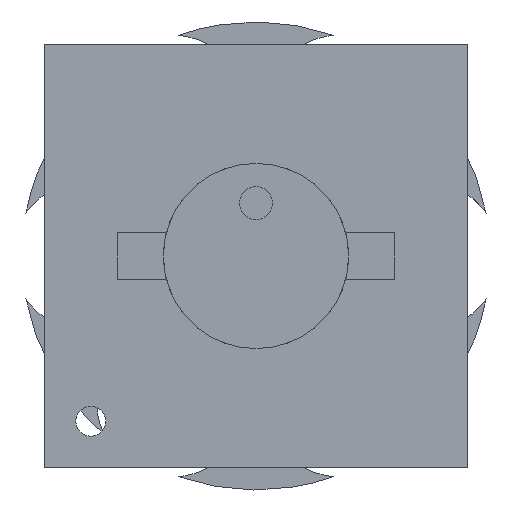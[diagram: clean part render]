
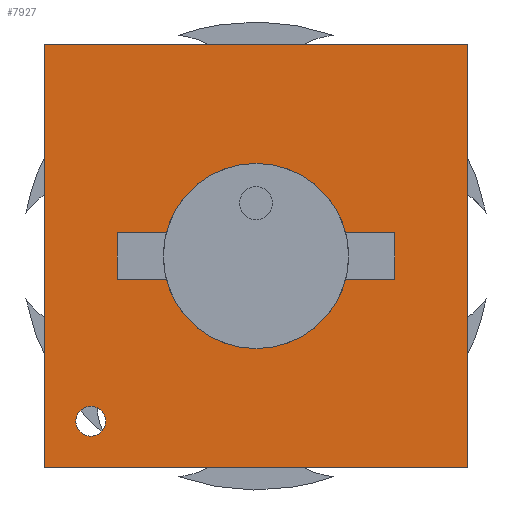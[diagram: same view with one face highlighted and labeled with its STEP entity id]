
A CAD part, front view. The second image highlights one B-rep face of the part: STEP entity #7927.
In plain terms, the highlighted planar face has unit normal (0, -1, 0).
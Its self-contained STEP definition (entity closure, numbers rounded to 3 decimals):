
#7738 = VERTEX_POINT('',#7739);
#7739 = CARTESIAN_POINT('',(-82.,-40.,84.7));
#7746 = PLANE('',#7747);
#7747 = AXIS2_PLACEMENT_3D('',#7748,#7749,#7750);
#7748 = CARTESIAN_POINT('',(-82.,-33.,84.7));
#7749 = DIRECTION('',(1.,0.,0.));
#7750 = DIRECTION('',(0.,-1.,0.));
#7758 = PLANE('',#7759);
#7759 = AXIS2_PLACEMENT_3D('',#7760,#7761,#7762);
#7760 = CARTESIAN_POINT('',(-82.,-33.,84.7));
#7761 = DIRECTION('',(0.,0.,1.));
#7762 = DIRECTION('',(0.,-1.,0.));
#7799 = VERTEX_POINT('',#7800);
#7800 = CARTESIAN_POINT('',(-82.,-40.,148.7));
#7814 = PLANE('',#7815);
#7815 = AXIS2_PLACEMENT_3D('',#7816,#7817,#7818);
#7816 = CARTESIAN_POINT('',(-82.,-33.,148.7));
#7817 = DIRECTION('',(0.,0.,1.));
#7818 = DIRECTION('',(0.,-1.,0.));
#7826 = EDGE_CURVE('',#7738,#7799,#7827,.T.);
#7827 = SURFACE_CURVE('',#7828,(#7832,#7839),.PCURVE_S1.);
#7828 = LINE('',#7829,#7830);
#7829 = CARTESIAN_POINT('',(-82.,-40.,84.7));
#7830 = VECTOR('',#7831,1.);
#7831 = DIRECTION('',(0.,0.,1.));
#7832 = PCURVE('',#7746,#7833);
#7833 = DEFINITIONAL_REPRESENTATION('',(#7834),#7838);
#7834 = LINE('',#7835,#7836);
#7835 = CARTESIAN_POINT('',(7.,0.));
#7836 = VECTOR('',#7837,1.);
#7837 = DIRECTION('',(0.,-1.));
#7838 = ( GEOMETRIC_REPRESENTATION_CONTEXT(2) 
PARAMETRIC_REPRESENTATION_CONTEXT() REPRESENTATION_CONTEXT('2D SPACE',''
  ) );
#7839 = PCURVE('',#7840,#7845);
#7840 = PLANE('',#7841);
#7841 = AXIS2_PLACEMENT_3D('',#7842,#7843,#7844);
#7842 = CARTESIAN_POINT('',(-82.,-40.,84.7));
#7843 = DIRECTION('',(0.,-1.,0.));
#7844 = DIRECTION('',(1.,0.,0.));
#7845 = DEFINITIONAL_REPRESENTATION('',(#7846),#7850);
#7846 = LINE('',#7847,#7848);
#7847 = CARTESIAN_POINT('',(0.,0.));
#7848 = VECTOR('',#7849,1.);
#7849 = DIRECTION('',(0.,1.));
#7850 = ( GEOMETRIC_REPRESENTATION_CONTEXT(2) 
PARAMETRIC_REPRESENTATION_CONTEXT() REPRESENTATION_CONTEXT('2D SPACE',''
  ) );
#7879 = EDGE_CURVE('',#7738,#7880,#7882,.T.);
#7880 = VERTEX_POINT('',#7881);
#7881 = CARTESIAN_POINT('',(-18.,-40.,84.7));
#7882 = SURFACE_CURVE('',#7883,(#7887,#7894),.PCURVE_S1.);
#7883 = LINE('',#7884,#7885);
#7884 = CARTESIAN_POINT('',(-82.,-40.,84.7));
#7885 = VECTOR('',#7886,1.);
#7886 = DIRECTION('',(1.,0.,0.));
#7887 = PCURVE('',#7758,#7888);
#7888 = DEFINITIONAL_REPRESENTATION('',(#7889),#7893);
#7889 = LINE('',#7890,#7891);
#7890 = CARTESIAN_POINT('',(7.,0.));
#7891 = VECTOR('',#7892,1.);
#7892 = DIRECTION('',(0.,1.));
#7893 = ( GEOMETRIC_REPRESENTATION_CONTEXT(2) 
PARAMETRIC_REPRESENTATION_CONTEXT() REPRESENTATION_CONTEXT('2D SPACE',''
  ) );
#7894 = PCURVE('',#7840,#7895);
#7895 = DEFINITIONAL_REPRESENTATION('',(#7896),#7900);
#7896 = LINE('',#7897,#7898);
#7897 = CARTESIAN_POINT('',(0.,0.));
#7898 = VECTOR('',#7899,1.);
#7899 = DIRECTION('',(1.,0.));
#7900 = ( GEOMETRIC_REPRESENTATION_CONTEXT(2) 
PARAMETRIC_REPRESENTATION_CONTEXT() REPRESENTATION_CONTEXT('2D SPACE',''
  ) );
#7916 = PLANE('',#7917);
#7917 = AXIS2_PLACEMENT_3D('',#7918,#7919,#7920);
#7918 = CARTESIAN_POINT('',(-18.,-33.,84.7));
#7919 = DIRECTION('',(1.,0.,0.));
#7920 = DIRECTION('',(0.,-1.,0.));
#7927 = ADVANCED_FACE('',(#7928,#7976,#8011,#8046),#7840,.T.);
#7928 = FACE_BOUND('',#7929,.T.);
#7929 = EDGE_LOOP('',(#7930,#7931,#7932,#7955));
#7930 = ORIENTED_EDGE('',*,*,#7826,.F.);
#7931 = ORIENTED_EDGE('',*,*,#7879,.T.);
#7932 = ORIENTED_EDGE('',*,*,#7933,.T.);
#7933 = EDGE_CURVE('',#7880,#7934,#7936,.T.);
#7934 = VERTEX_POINT('',#7935);
#7935 = CARTESIAN_POINT('',(-18.,-40.,148.7));
#7936 = SURFACE_CURVE('',#7937,(#7941,#7948),.PCURVE_S1.);
#7937 = LINE('',#7938,#7939);
#7938 = CARTESIAN_POINT('',(-18.,-40.,84.7));
#7939 = VECTOR('',#7940,1.);
#7940 = DIRECTION('',(0.,0.,1.));
#7941 = PCURVE('',#7840,#7942);
#7942 = DEFINITIONAL_REPRESENTATION('',(#7943),#7947);
#7943 = LINE('',#7944,#7945);
#7944 = CARTESIAN_POINT('',(64.,0.));
#7945 = VECTOR('',#7946,1.);
#7946 = DIRECTION('',(0.,1.));
#7947 = ( GEOMETRIC_REPRESENTATION_CONTEXT(2) 
PARAMETRIC_REPRESENTATION_CONTEXT() REPRESENTATION_CONTEXT('2D SPACE',''
  ) );
#7948 = PCURVE('',#7916,#7949);
#7949 = DEFINITIONAL_REPRESENTATION('',(#7950),#7954);
#7950 = LINE('',#7951,#7952);
#7951 = CARTESIAN_POINT('',(7.,0.));
#7952 = VECTOR('',#7953,1.);
#7953 = DIRECTION('',(0.,-1.));
#7954 = ( GEOMETRIC_REPRESENTATION_CONTEXT(2) 
PARAMETRIC_REPRESENTATION_CONTEXT() REPRESENTATION_CONTEXT('2D SPACE',''
  ) );
#7955 = ORIENTED_EDGE('',*,*,#7956,.F.);
#7956 = EDGE_CURVE('',#7799,#7934,#7957,.T.);
#7957 = SURFACE_CURVE('',#7958,(#7962,#7969),.PCURVE_S1.);
#7958 = LINE('',#7959,#7960);
#7959 = CARTESIAN_POINT('',(-82.,-40.,148.7));
#7960 = VECTOR('',#7961,1.);
#7961 = DIRECTION('',(1.,0.,0.));
#7962 = PCURVE('',#7840,#7963);
#7963 = DEFINITIONAL_REPRESENTATION('',(#7964),#7968);
#7964 = LINE('',#7965,#7966);
#7965 = CARTESIAN_POINT('',(0.,64.));
#7966 = VECTOR('',#7967,1.);
#7967 = DIRECTION('',(1.,0.));
#7968 = ( GEOMETRIC_REPRESENTATION_CONTEXT(2) 
PARAMETRIC_REPRESENTATION_CONTEXT() REPRESENTATION_CONTEXT('2D SPACE',''
  ) );
#7969 = PCURVE('',#7814,#7970);
#7970 = DEFINITIONAL_REPRESENTATION('',(#7971),#7975);
#7971 = LINE('',#7972,#7973);
#7972 = CARTESIAN_POINT('',(7.,0.));
#7973 = VECTOR('',#7974,1.);
#7974 = DIRECTION('',(0.,1.));
#7975 = ( GEOMETRIC_REPRESENTATION_CONTEXT(2) 
PARAMETRIC_REPRESENTATION_CONTEXT() REPRESENTATION_CONTEXT('2D SPACE',''
  ) );
#7976 = FACE_BOUND('',#7977,.T.);
#7977 = EDGE_LOOP('',(#7978));
#7978 = ORIENTED_EDGE('',*,*,#7979,.T.);
#7979 = EDGE_CURVE('',#7980,#7980,#7982,.T.);
#7980 = VERTEX_POINT('',#7981);
#7981 = CARTESIAN_POINT('',(-77.25,-40.,91.7));
#7982 = SURFACE_CURVE('',#7983,(#7988,#7999),.PCURVE_S1.);
#7983 = CIRCLE('',#7984,2.25);
#7984 = AXIS2_PLACEMENT_3D('',#7985,#7986,#7987);
#7985 = CARTESIAN_POINT('',(-75.,-40.,91.7));
#7986 = DIRECTION('',(0.,1.,0.));
#7987 = DIRECTION('',(-1.,0.,0.));
#7988 = PCURVE('',#7840,#7989);
#7989 = DEFINITIONAL_REPRESENTATION('',(#7990),#7998);
#7990 = ( BOUNDED_CURVE() B_SPLINE_CURVE(2,(#7991,#7992,#7993,#7994,
#7995,#7996,#7997),.UNSPECIFIED.,.T.,.F.) B_SPLINE_CURVE_WITH_KNOTS((1,2
    ,2,2,2,1),(-2.094,0.,2.094,4.189,
6.283,8.378),.UNSPECIFIED.) CURVE() 
GEOMETRIC_REPRESENTATION_ITEM() RATIONAL_B_SPLINE_CURVE((1.,0.5,1.,0.5,
1.,0.5,1.)) REPRESENTATION_ITEM('') );
#7991 = CARTESIAN_POINT('',(4.75,7.));
#7992 = CARTESIAN_POINT('',(4.75,10.897));
#7993 = CARTESIAN_POINT('',(8.125,8.949));
#7994 = CARTESIAN_POINT('',(11.5,7.));
#7995 = CARTESIAN_POINT('',(8.125,5.051));
#7996 = CARTESIAN_POINT('',(4.75,3.103));
#7997 = CARTESIAN_POINT('',(4.75,7.));
#7998 = ( GEOMETRIC_REPRESENTATION_CONTEXT(2) 
PARAMETRIC_REPRESENTATION_CONTEXT() REPRESENTATION_CONTEXT('2D SPACE',''
  ) );
#7999 = PCURVE('',#8000,#8005);
#8000 = CYLINDRICAL_SURFACE('',#8001,2.25);
#8001 = AXIS2_PLACEMENT_3D('',#8002,#8003,#8004);
#8002 = CARTESIAN_POINT('',(-75.,-40.,91.7));
#8003 = DIRECTION('',(0.,1.,0.));
#8004 = DIRECTION('',(-1.,0.,0.));
#8005 = DEFINITIONAL_REPRESENTATION('',(#8006),#8010);
#8006 = LINE('',#8007,#8008);
#8007 = CARTESIAN_POINT('',(0.,0.));
#8008 = VECTOR('',#8009,1.);
#8009 = DIRECTION('',(1.,0.));
#8010 = ( GEOMETRIC_REPRESENTATION_CONTEXT(2) 
PARAMETRIC_REPRESENTATION_CONTEXT() REPRESENTATION_CONTEXT('2D SPACE',''
  ) );
#8011 = FACE_BOUND('',#8012,.T.);
#8012 = EDGE_LOOP('',(#8013));
#8013 = ORIENTED_EDGE('',*,*,#8014,.T.);
#8014 = EDGE_CURVE('',#8015,#8015,#8017,.T.);
#8015 = VERTEX_POINT('',#8016);
#8016 = CARTESIAN_POINT('',(-69.6,-40.,116.7));
#8017 = SURFACE_CURVE('',#8018,(#8023,#8034),.PCURVE_S1.);
#8018 = CIRCLE('',#8019,2.1);
#8019 = AXIS2_PLACEMENT_3D('',#8020,#8021,#8022);
#8020 = CARTESIAN_POINT('',(-67.5,-40.,116.7));
#8021 = DIRECTION('',(0.,1.,0.));
#8022 = DIRECTION('',(-1.,0.,0.));
#8023 = PCURVE('',#7840,#8024);
#8024 = DEFINITIONAL_REPRESENTATION('',(#8025),#8033);
#8025 = ( BOUNDED_CURVE() B_SPLINE_CURVE(2,(#8026,#8027,#8028,#8029,
#8030,#8031,#8032),.UNSPECIFIED.,.T.,.F.) B_SPLINE_CURVE_WITH_KNOTS((1,2
    ,2,2,2,1),(-2.094,0.,2.094,4.189,
6.283,8.378),.UNSPECIFIED.) CURVE() 
GEOMETRIC_REPRESENTATION_ITEM() RATIONAL_B_SPLINE_CURVE((1.,0.5,1.,0.5,
1.,0.5,1.)) REPRESENTATION_ITEM('') );
#8026 = CARTESIAN_POINT('',(12.4,32.));
#8027 = CARTESIAN_POINT('',(12.4,35.637));
#8028 = CARTESIAN_POINT('',(15.55,33.819));
#8029 = CARTESIAN_POINT('',(18.7,32.));
#8030 = CARTESIAN_POINT('',(15.55,30.181));
#8031 = CARTESIAN_POINT('',(12.4,28.363));
#8032 = CARTESIAN_POINT('',(12.4,32.));
#8033 = ( GEOMETRIC_REPRESENTATION_CONTEXT(2) 
PARAMETRIC_REPRESENTATION_CONTEXT() REPRESENTATION_CONTEXT('2D SPACE',''
  ) );
#8034 = PCURVE('',#8035,#8040);
#8035 = CYLINDRICAL_SURFACE('',#8036,2.1);
#8036 = AXIS2_PLACEMENT_3D('',#8037,#8038,#8039);
#8037 = CARTESIAN_POINT('',(-67.5,-40.,116.7));
#8038 = DIRECTION('',(0.,1.,0.));
#8039 = DIRECTION('',(-1.,0.,0.));
#8040 = DEFINITIONAL_REPRESENTATION('',(#8041),#8045);
#8041 = LINE('',#8042,#8043);
#8042 = CARTESIAN_POINT('',(0.,0.));
#8043 = VECTOR('',#8044,1.);
#8044 = DIRECTION('',(1.,0.));
#8045 = ( GEOMETRIC_REPRESENTATION_CONTEXT(2) 
PARAMETRIC_REPRESENTATION_CONTEXT() REPRESENTATION_CONTEXT('2D SPACE',''
  ) );
#8046 = FACE_BOUND('',#8047,.T.);
#8047 = EDGE_LOOP('',(#8048));
#8048 = ORIENTED_EDGE('',*,*,#8049,.T.);
#8049 = EDGE_CURVE('',#8050,#8050,#8052,.T.);
#8050 = VERTEX_POINT('',#8051);
#8051 = CARTESIAN_POINT('',(-59.,-40.,116.7));
#8052 = SURFACE_CURVE('',#8053,(#8058,#8069),.PCURVE_S1.);
#8053 = CIRCLE('',#8054,9.);
#8054 = AXIS2_PLACEMENT_3D('',#8055,#8056,#8057);
#8055 = CARTESIAN_POINT('',(-50.,-40.,116.7));
#8056 = DIRECTION('',(0.,1.,0.));
#8057 = DIRECTION('',(-1.,0.,0.));
#8058 = PCURVE('',#7840,#8059);
#8059 = DEFINITIONAL_REPRESENTATION('',(#8060),#8068);
#8060 = ( BOUNDED_CURVE() B_SPLINE_CURVE(2,(#8061,#8062,#8063,#8064,
#8065,#8066,#8067),.UNSPECIFIED.,.T.,.F.) B_SPLINE_CURVE_WITH_KNOTS((1,2
    ,2,2,2,1),(-2.094,0.,2.094,4.189,
6.283,8.378),.UNSPECIFIED.) CURVE() 
GEOMETRIC_REPRESENTATION_ITEM() RATIONAL_B_SPLINE_CURVE((1.,0.5,1.,0.5,
1.,0.5,1.)) REPRESENTATION_ITEM('') );
#8061 = CARTESIAN_POINT('',(23.,32.));
#8062 = CARTESIAN_POINT('',(23.,47.588));
#8063 = CARTESIAN_POINT('',(36.5,39.794));
#8064 = CARTESIAN_POINT('',(50.,32.));
#8065 = CARTESIAN_POINT('',(36.5,24.206));
#8066 = CARTESIAN_POINT('',(23.,16.412));
#8067 = CARTESIAN_POINT('',(23.,32.));
#8068 = ( GEOMETRIC_REPRESENTATION_CONTEXT(2) 
PARAMETRIC_REPRESENTATION_CONTEXT() REPRESENTATION_CONTEXT('2D SPACE',''
  ) );
#8069 = PCURVE('',#8070,#8075);
#8070 = CYLINDRICAL_SURFACE('',#8071,9.);
#8071 = AXIS2_PLACEMENT_3D('',#8072,#8073,#8074);
#8072 = CARTESIAN_POINT('',(-50.,-40.,116.7));
#8073 = DIRECTION('',(0.,1.,0.));
#8074 = DIRECTION('',(-1.,0.,0.));
#8075 = DEFINITIONAL_REPRESENTATION('',(#8076),#8080);
#8076 = LINE('',#8077,#8078);
#8077 = CARTESIAN_POINT('',(0.,0.));
#8078 = VECTOR('',#8079,1.);
#8079 = DIRECTION('',(1.,0.));
#8080 = ( GEOMETRIC_REPRESENTATION_CONTEXT(2) 
PARAMETRIC_REPRESENTATION_CONTEXT() REPRESENTATION_CONTEXT('2D SPACE',''
  ) );
